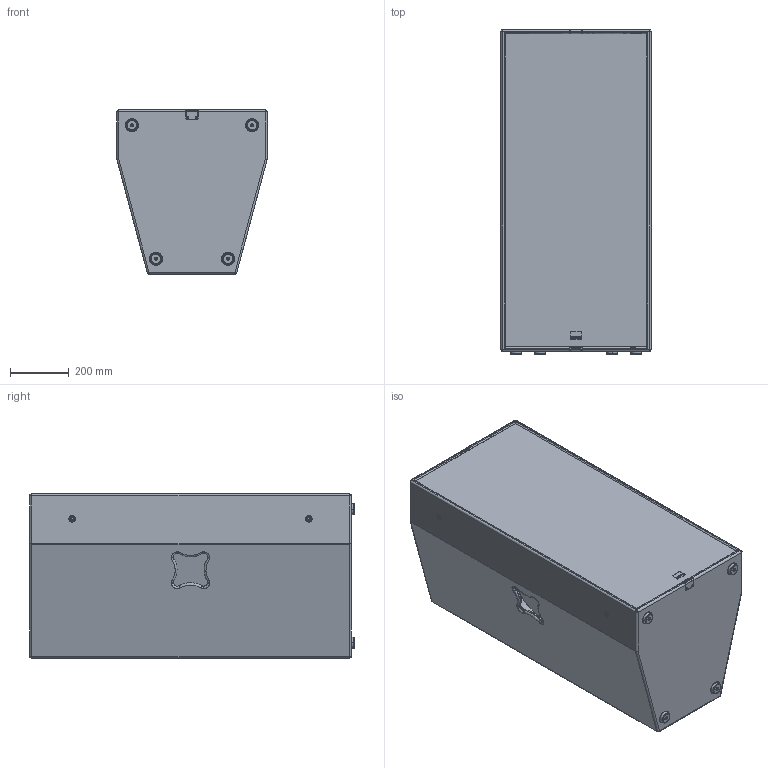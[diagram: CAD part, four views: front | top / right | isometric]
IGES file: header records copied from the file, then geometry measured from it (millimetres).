
Start section: SolidWorks IGES file using analytic representation for surfaces
Global section: file name: C:\Dokumente und Einstellungen\PC_Fabian\Desktop\K-Serie\Seeburg_K25.IGS; native system: SolidWorks 2009; preprocessor: SolidWorks 2009; author: PC_Fabian; date: 121016.140531; units: millimetre
Bounding box: 512 x 1108 x 560 mm (x, y, z)
Surface area: 5399823.1 mm2 (no closed solid volume)
Topology: 0 solids, 0 shells, 778 faces, 10908 edges, 10904 vertices
Faces by surface type: revolution 438, bspline 340
